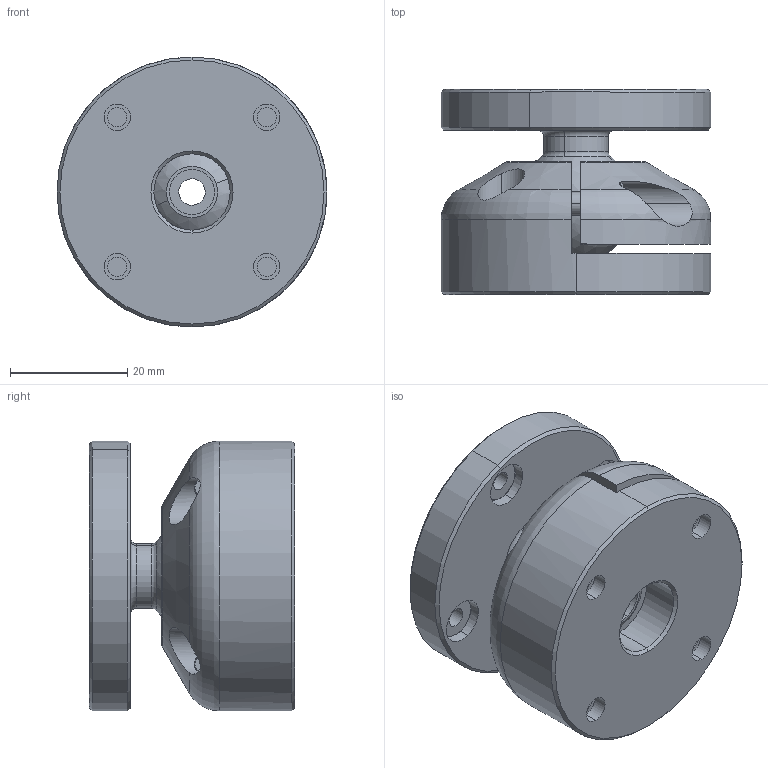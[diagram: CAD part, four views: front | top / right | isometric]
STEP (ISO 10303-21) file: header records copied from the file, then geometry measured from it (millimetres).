
FILE_DESCRIPTION (( 'STEP AP203' ), '1' );
FILE_NAME ('GK08-Gelenkkopf.STEP', '2013-09-30T08:50:01', ( 'MM01' ), ( '' ), 'SwSTEP 2.0', 'SolidWorks 2012', '' );
FILE_SCHEMA (( 'CONFIG_CONTROL_DESIGN' ));
Length unit declared in the file: millimetre
Products named in the file (3): GK08-schwenkteil; GK08-fix; GK08-Gelenkkopf
Assembly tree (2 placements, depth 2):
  GK08-Gelenkkopf
    GK08-fix
    GK08-schwenkteil
Bounding box: 46 x 35 x 46 mm (x, y, z)
Volume: 38348.5 mm3; surface area: 17301.1 mm2
Topology: 2 solids, 2 shells, 334 faces, 930 edges, 577 vertices
Faces by surface type: cone 116, plane 105, cylinder 85, torus 22, sphere 6
Entity records: 12081 total; most frequent: CARTESIAN_POINT 3156, ORIENTED_EDGE 1850, DIRECTION 1800, EDGE_CURVE 925, AXIS2_PLACEMENT_3D 776, VERTEX_POINT 574, CIRCLE 437, EDGE_LOOP 431
